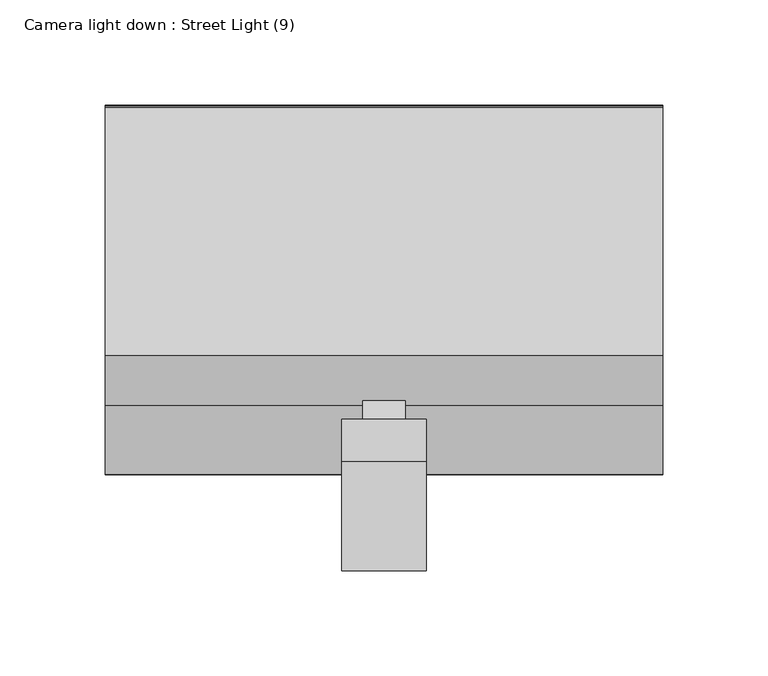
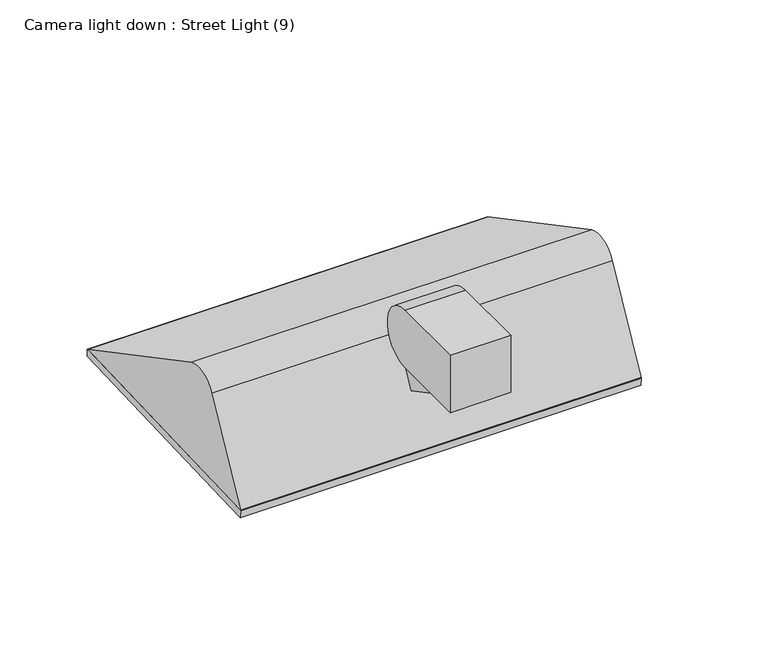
"""IFC4 building model written with IfcOpenShell, lengths in millimetres: light fixture geometry, Camera light down : Street Light (9)."""

from ifc_helpers import new_model, si_unit, point, frame, frame_2d, origin, place, context, project, spatial, polyline, circle_curve, trimmed, segment, composite_curve, outline, extrude, source, transform, mapped, element, save


def camera_light_down_street_light_9_3c192e06(model_context):
    return source(origin(), model_context, "Body", "SweptSolid", [
        extrude(outline(polyline([(0.0, -175.6406993), (0.0, 0.0), (265.0, 0.0), (265.0, -175.6406993), (0.0, -175.6406993)])), frame((-132.5, 401.9240196, 3.2229441), z_axis=(0.0, -0.036699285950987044, 0.9993263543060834), x_axis=(1.0, 0.0, 0.0)), (0.0, 0.0, 1.0), 5.0),
        extrude(outline(composite_curve([segment(polyline([(261.3658497, 68.1650814), (242.6506232, 32.8134153), (187.4827276, 62.0193843)]), True, "CONTINUOUS"), segment(trimmed(circle_curve(frame_2d((196.8403408, 79.6952173)), 20.0), [point((187.4827276, 62.0193843))], [point((206.1979541, 97.3710504))], True, "CARTESIAN"), True, "CONTINUOUS"), segment(polyline([(206.1979541, 97.3710504), (261.3658497, 68.1650814)]), True, "CONTINUOUS")], self_intersect=False)), frame((-10.0, 0.0, 0.0), z_axis=(1.0, 0.0, 0.0), x_axis=(0.0, 1.0, 0.0)), (0.0, 0.0, 1.0), 20.0),
        extrude(outline(composite_curve([segment(polyline([(401.7405232, 8.2195759), (226.2181435, 1.7736876), (259.0831028, 63.853143)]), True, "CONTINUOUS"), segment(trimmed(circle_curve(frame_2d((274.6185395, 55.6286589)), 17.5781663), [point((259.0831028, 63.853143))], [point((282.8430235, 71.1640955))], False, "CARTESIAN"), True, "CONTINUOUS"), segment(polyline([(282.8430235, 71.1640955), (401.7405232, 8.2195759)]), True, "CONTINUOUS")], self_intersect=False)), frame((-132.5, 0.0, 0.0), z_axis=(1.0, 0.0, 0.0), x_axis=(0.0, 1.0, 0.0)), (0.0, 0.0, 1.0), 265.0),
        extrude(outline(composite_curve([segment(polyline([(180.6862974, 58.6950326), (180.6862974, 98.6950326), (232.6862974, 98.6950326)]), True, "CONTINUOUS"), segment(trimmed(circle_curve(frame_2d((232.6862974, 78.6950326)), 20.0), [point((232.6862974, 98.6950326))], [point((232.6862974, 58.6950326))], False, "CARTESIAN"), True, "CONTINUOUS"), segment(polyline([(232.6862974, 58.6950326), (180.6862974, 58.6950326)]), True, "CONTINUOUS")], self_intersect=False)), frame((-20.0, 0.0, 0.0), z_axis=(1.0, 0.0, 0.0), x_axis=(0.0, 1.0, 0.0)), (0.0, 0.0, 1.0), 40.0),
    ])


if __name__ == "__main__":
    model = new_model("IFC4")
    model_context = context("Model", 3, world=origin())
    ifc_project = project(units=[si_unit("LENGTHUNIT", "METRE", prefix="MILLI")], contexts=[model_context])
    site = spatial("IfcSite", under=ifc_project)
    building = spatial("IfcBuilding", under=site)
    placement = place(None, origin())
    camera_light_down_street_light_9_shape = camera_light_down_street_light_9_3c192e06(model_context)
    element("IfcLightFixture", 1, ObjectType="Camera light down : Street Light (9)", at=placement, inside=building, context=model_context, shape_type="MappedRepresentation", body=[
        mapped(camera_light_down_street_light_9_shape, transform((0.0, 0.0, 0.0), x_axis=(1.0, 0.0, 0.0), y_axis=(0.0, 1.0, 0.0), z_axis=(0.0, 0.0, 1.0))),
    ])
    save(model, "model.ifc")
